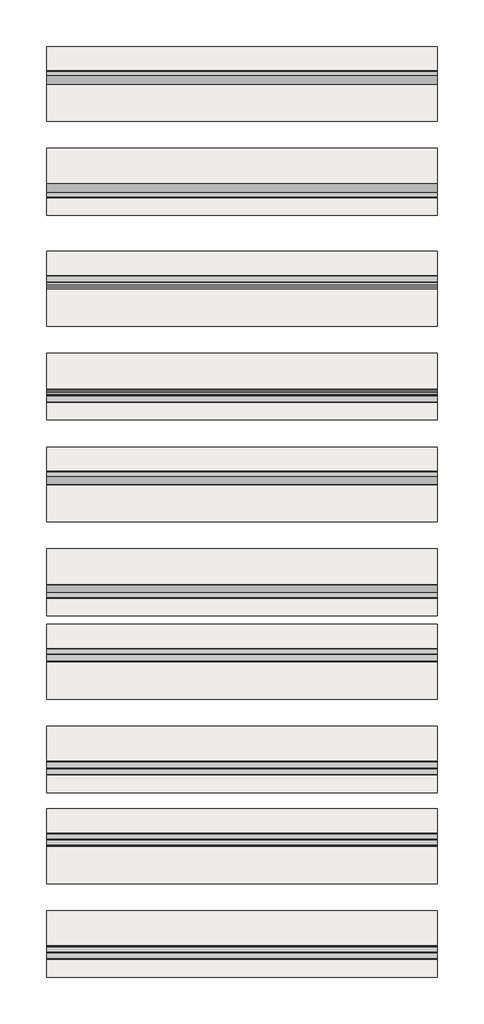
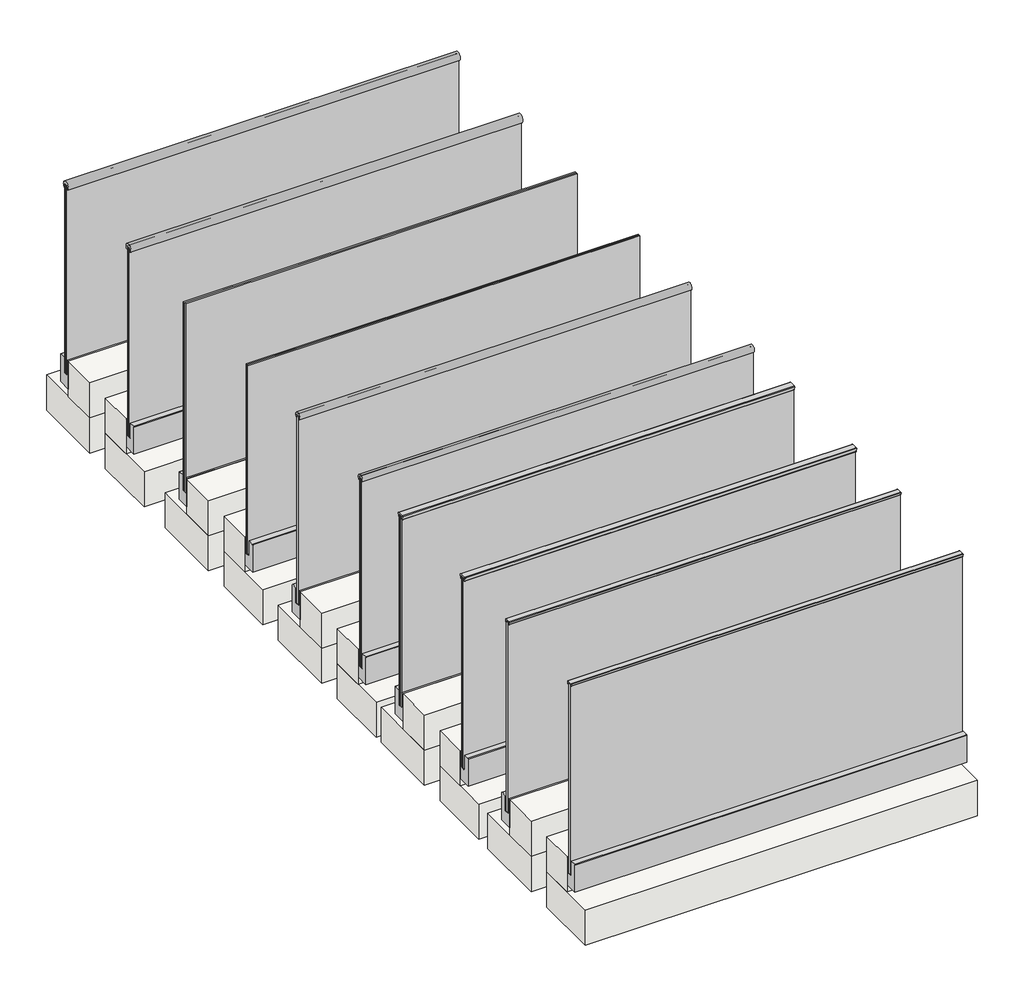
# One storey: 10 railings, 10 slabs.
"""IFC4 building model written with IfcOpenShell, lengths in millimetres."""

import ifcopenshell
import ifcopenshell.guid

model = None  # the IFC model being written
_history = None  # IfcOwnerHistory: only IFC2X3 demands one
_inside = {}  # id of a spatial element -> (the spatial element, [elements in it])
_under = {}  # id of a project, library or spatial element -> (it, [spatial elements below it])
_declared = {}  # id of a project -> (the project, [libraries it declares])
_typed = {}  # id of a type object -> (the type object, [elements of that type])
_made_of = {}  # id of a material, layer set ... -> (it, [elements and type objects made of it])


def new_model(schema):
    """Start an empty IFC model of exactly this schema.

    Asked for "IFC4X3", IfcOpenShell would pick the latest addendum, in which some entities
    have other attributes; the version numbers below select the first issue.
    IFC2X3 requires an IfcOwnerHistory on every rooted entity: one is made here for all.
    """
    global model, _history
    if schema == "IFC4X3":
        model = ifcopenshell.file(schema_version=(4, 3, 0, 0))
    else:
        model = ifcopenshell.file(schema=schema)
    _inside.clear()
    _under.clear()
    _declared.clear()
    _typed.clear()
    _made_of.clear()
    _history = None
    if model.schema == "IFC2X3":
        org = make("IfcOrganization", Name="unknown")
        user = make(
            "IfcPersonAndOrganization",
            ThePerson=make("IfcPerson", FamilyName="unknown"),
            TheOrganization=org,
        )
        app = make(
            "IfcApplication",
            ApplicationDeveloper=org,
            Version="unknown",
            ApplicationFullName="unknown",
            ApplicationIdentifier="unknown",
        )
        _history = make(
            "IfcOwnerHistory",
            OwningUser=user,
            OwningApplication=app,
            ChangeAction="ADDED",
            CreationDate=0,
        )
    return model


def make(cls, **values):
    """One entity of the class cls with the attributes given. An attribute that is None is left unset."""
    return model.create_entity(
        cls, **{name: value for name, value in values.items() if value is not None}
    )


def rooted(cls, **values):
    """An entity with a GlobalId (a new one), such as an element, a storey or a relation."""
    return make(cls, GlobalId=ifcopenshell.guid.new(), OwnerHistory=_history, **values)


def si_unit(unit_type, name, prefix=None):
    """IfcSIUnit, for example si_unit("LENGTHUNIT", "METRE", prefix="MILLI")."""
    return make("IfcSIUnit", UnitType=unit_type, Prefix=prefix, Name=name)


def assignment(units):
    """IfcUnitAssignment: the units of a project."""
    return None if units is None else make("IfcUnitAssignment", Units=units)


def point(xyz):
    """IfcCartesianPoint."""
    return None if xyz is None else make("IfcCartesianPoint", Coordinates=xyz)


def direction(xyz):
    """IfcDirection."""
    return None if xyz is None else make("IfcDirection", DirectionRatios=xyz)


def frame(location, z_axis=None, x_axis=None):
    """IfcAxis2Placement3D, a coordinate frame: its origin and axes. An axis left out is left unset."""
    return make(
        "IfcAxis2Placement3D",
        Location=point(location),
        Axis=direction(z_axis),
        RefDirection=direction(x_axis),
    )


def frame_2d(location, x_axis=None):
    """IfcAxis2Placement2D, a coordinate frame in the plane: its origin and x axis."""
    return make(
        "IfcAxis2Placement2D", Location=point(location), RefDirection=direction(x_axis)
    )


def origin():
    """The frame at (0, 0, 0) with its axes left unset."""
    return frame((0.0, 0.0, 0.0))


def place(relative_to, where):
    """IfcLocalPlacement: puts the frame where relative to a parent placement (None: the world)."""
    return make(
        "IfcLocalPlacement", PlacementRelTo=relative_to, RelativePlacement=where
    )


def context(
    kind, dimensions, precision=None, world=None, true_north=None, identifier=None
):
    """IfcGeometricRepresentationContext, for example the 3D "Model" context."""
    return make(
        "IfcGeometricRepresentationContext",
        ContextIdentifier=identifier,
        ContextType=kind,
        CoordinateSpaceDimension=dimensions,
        Precision=precision,
        WorldCoordinateSystem=world,
        TrueNorth=true_north,
    )


def project(units=None, contexts=None):
    """IfcProject with its units and contexts."""
    return rooted(
        "IfcProject",
        Name="project",
        RepresentationContexts=contexts,
        UnitsInContext=assignment(units),
    )


def spatial(cls, under=None, at=None, **own):
    """A site, building, storey or space (cls), placed at a placement, below another one or the project."""
    s = rooted(cls, ObjectPlacement=at, **own)
    if under is not None:
        _under.setdefault(under.id(), (under, []))[1].append(s)
    return s


def polyline(points):
    """IfcPolyline through the points."""
    return make("IfcPolyline", Points=[point(p) for p in points])


def circle_curve(where, radius):
    """IfcCircle in the frame where."""
    return make("IfcCircle", Position=where, Radius=radius)


def trimmed(basis, trim1, trim2, sense, master):
    """IfcTrimmedCurve: the piece of a basis curve between two trims."""
    return make(
        "IfcTrimmedCurve",
        BasisCurve=basis,
        Trim1=trim1,
        Trim2=trim2,
        SenseAgreement=sense,
        MasterRepresentation=master,
    )


def segment(curve, same_sense, transition):
    """IfcCompositeCurveSegment."""
    return make(
        "IfcCompositeCurveSegment",
        Transition=transition,
        SameSense=same_sense,
        ParentCurve=curve,
    )


def composite_curve(segments, self_intersect=None):
    """IfcCompositeCurve: segments joined end to end."""
    return make("IfcCompositeCurve", Segments=segments, SelfIntersect=self_intersect)


def outline(outer, holes=None, kind="AREA"):
    """IfcArbitraryClosedProfileDef: a profile drawn as a closed curve; with holes, ...WithVoids."""
    if holes is None:
        return make("IfcArbitraryClosedProfileDef", ProfileType=kind, OuterCurve=outer)
    return make(
        "IfcArbitraryProfileDefWithVoids",
        ProfileType=kind,
        OuterCurve=outer,
        InnerCurves=holes,
    )


def extrude(swept, where, along, depth):
    """IfcExtrudedAreaSolid: the profile swept, set in the frame where, extruded along a direction by depth."""
    return make(
        "IfcExtrudedAreaSolid",
        SweptArea=swept,
        Position=where,
        ExtrudedDirection=direction(along),
        Depth=depth,
    )


def shape(context_of_items, identifier, shape_type, items):
    """IfcShapeRepresentation: the items that make up one representation, for example the "Body"."""
    return make(
        "IfcShapeRepresentation",
        ContextOfItems=context_of_items,
        RepresentationIdentifier=identifier,
        RepresentationType=shape_type,
        Items=items,
    )


def source(mapping_origin, context_of_items, identifier, shape_type, items):
    """IfcRepresentationMap: a shape defined once, which mapped items show again and again."""
    return make(
        "IfcRepresentationMap",
        MappingOrigin=mapping_origin,
        MappedRepresentation=shape(context_of_items, identifier, shape_type, items),
    )


def transform(
    local_origin,
    x_axis=None,
    y_axis=None,
    z_axis=None,
    scale=None,
    scale2=None,
    scale3=None,
    uniform=True,
):
    """IfcCartesianTransformationOperator3D, or its non-uniform kind. x_axis, y_axis, z_axis: its Axis1, 2, 3."""
    if uniform:
        return make(
            "IfcCartesianTransformationOperator3D",
            Axis1=direction(x_axis),
            Axis2=direction(y_axis),
            LocalOrigin=point(local_origin),
            Scale=scale,
            Axis3=direction(z_axis),
        )
    return make(
        "IfcCartesianTransformationOperator3DnonUniform",
        Axis1=direction(x_axis),
        Axis2=direction(y_axis),
        LocalOrigin=point(local_origin),
        Scale=scale,
        Axis3=direction(z_axis),
        Scale2=scale2,
        Scale3=scale3,
    )


def mapped(mapping_source, mapping_target):
    """IfcMappedItem: shows the shape of a source again, moved by a transform."""
    return make(
        "IfcMappedItem", MappingSource=mapping_source, MappingTarget=mapping_target
    )


def made_of(thing, what):
    """Note that an element or type object is made of a material, layer set ...; save() writes the relation."""
    if what is not None:
        _made_of.setdefault(what.id(), (what, []))[1].append(thing)
    return thing


def element(
    cls,
    number,
    at=None,
    inside=None,
    cuts=None,
    type_object=None,
    material=None,
    context=None,
    identifier="Body",
    shape_type=None,
    held_by="IfcProductDefinitionShape",
    body=None,
    shapes=None,
    **own,
):
    """One element of the class cls, such as IfcWall. Its Tag is "e" and its number.

    at: its placement. inside: the storey or other place that contains it. cuts: it is an
    opening in that element (IfcRelVoidsElement). A single representation is given by context,
    identifier, shape_type and body (its items); several are given by shapes. held_by: the class
    of the entity that holds the representations. save() writes the other relations.
    """
    e = rooted(cls, Tag="e%d" % number, ObjectPlacement=at, **own)
    if body is not None:
        shapes = [shape(context, identifier, shape_type, body)]
    if shapes is not None:
        e.Representation = make(held_by, Representations=shapes)
    if inside is not None:
        _inside.setdefault(inside.id(), (inside, []))[1].append(e)
    if cuts is not None:
        rooted(
            "IfcRelVoidsElement", RelatingBuildingElement=cuts, RelatedOpeningElement=e
        )
    if type_object is not None:
        _typed.setdefault(type_object.id(), (type_object, []))[1].append(e)
    return made_of(e, material)


def aggregate(whole, parts):
    """IfcRelAggregates: a whole, such as a stair, and the parts it consists of."""
    return rooted("IfcRelAggregates", RelatingObject=whole, RelatedObjects=parts)


def save(model, path):
    """Write the relations noted so far, then the file.

    IfcRelAggregates (storeys below a building ...), IfcRelContainedInSpatialStructure (elements
    in a storey), IfcRelDefinesByType, IfcRelAssociatesMaterial and IfcRelDeclares: one each for
    every whole, place, type object, material and project.
    """
    for whole, parts in _under.values():
        aggregate(whole, parts)
    for where, things in _inside.values():
        rooted(
            "IfcRelContainedInSpatialStructure",
            RelatedElements=things,
            RelatingStructure=where,
        )
    for kind, things in _typed.values():
        rooted("IfcRelDefinesByType", RelatedObjects=things, RelatingType=kind)
    for what, things in _made_of.values():
        rooted("IfcRelAssociatesMaterial", RelatedObjects=things, RelatingMaterial=what)
    for by, libraries in _declared.values():
        rooted("IfcRelDeclares", RelatingContext=by, RelatedDefinitions=libraries)
    model.write(path)


def railing_2c3a87d8(model_context):
    return source(origin(), model_context, "Body", "SweptSolid", [
        extrude(outline(composite_curve([segment(polyline([(683.811512, 1066.5209903), (680.8421604, 1066.5209903), (680.8421604, 1085.52)]), True, "CONTINUOUS"), segment(trimmed(circle_curve(frame_2d((676.8421604, 1085.52)), 4.0), [point((680.8421604, 1085.52))], [point((676.8421604, 1089.52))], True, "CARTESIAN"), True, "CONTINUOUS"), segment(polyline([(676.8421604, 1089.52), (656.0821604, 1089.52)]), True, "CONTINUOUS"), segment(trimmed(circle_curve(frame_2d((656.0821604, 1085.52)), 4.0), [point((656.0821604, 1089.52))], [point((652.0821604, 1085.52))], True, "CARTESIAN"), True, "CONTINUOUS"), segment(polyline([(652.0821604, 1085.52), (652.0821604, 1066.5209903), (649.1128089, 1066.5209903)]), True, "CONTINUOUS"), segment(trimmed(circle_curve(frame_2d((666.4621604, 1084.5209903)), 25.0), [point((649.1128089, 1066.5209903))], [point((683.811512, 1066.5209903))], False, "CARTESIAN"), True, "CONTINUOUS")], self_intersect=False)), frame((4362.6376845, 0.0, 0.0), z_axis=(1.0, 0.0, 0.0), x_axis=(0.0, 1.0, 0.0)), (0.0, 0.0, 1.0), 2320.0),
        extrude(outline(polyline([(655.6821604, -92.36), (655.6821604, 1087.04), (665.9321604, 1087.04), (665.9321604, -91.56), (666.9321604, -91.56), (666.9321604, 1087.04), (677.1821604, 1087.04), (677.1821604, -92.36), (655.6821604, -92.36)])), frame((4362.6376845, 0.0, 0.0), z_axis=(1.0, 0.0, 0.0), x_axis=(0.0, 1.0, 0.0)), (0.0, 0.0, 1.0), 2320.0),
        extrude(outline(composite_curve([segment(polyline([(643.8095909, -0.0006325), (653.7140314, -0.0006325), (653.7140314, -95.3393625), (685.4902895, -95.3393625), (685.4902895, -0.0006325), (717.9710254, -0.0006325)]), True, "CONTINUOUS"), segment(trimmed(circle_curve(frame_2d((717.9710254, -3.0621312)), 3.0614987), [point((717.9710254, -0.0006325))], [point((721.0325241, -3.0621312))], False, "CARTESIAN"), True, "CONTINUOUS"), segment(polyline([(721.0325241, -3.0621312), (721.0325241, -173.21), (640.6889907, -173.21), (640.6889907, -3.1212327)]), True, "CONTINUOUS"), segment(trimmed(circle_curve(frame_2d((643.8095909, -3.1212327)), 3.1206002), [point((640.6889907, -3.1212327))], [point((643.8095909, -0.0006325))], False, "CARTESIAN"), True, "CONTINUOUS")], self_intersect=False)), frame((4362.6376845, 0.0, 0.0), z_axis=(1.0, 0.0, 0.0), x_axis=(0.0, 1.0, 0.0)), (0.0, 0.0, 1.0), 2320.0),
        extrude(outline(polyline([(653.7102457, -95.34), (653.7102457, -20.1108016), (655.6841937, -20.1108016), (655.6841937, -92.3609041), (677.1940752, -92.3609041), (677.1940752, -95.34), (653.7102457, -95.34)])), frame((4362.6376845, 0.0, 0.0), z_axis=(1.0, 0.0, 0.0), x_axis=(0.0, 1.0, 0.0)), (0.0, 0.0, 1.0), 2320.0),
        extrude(outline(polyline([(4362.6376845, 652.0821604), (4362.6376845, 655.6821604), (6682.6376845, 655.6821604), (6682.6376845, 652.0821604), (4362.6376845, 652.0821604)])), frame((0.0, 0.0, 1066.52), z_axis=(0.0, 0.0, 1.0), x_axis=(1.0, 0.0, 0.0)), (0.0, 0.0, 1.0), 17.0),
        extrude(outline(polyline([(4362.6376845, 677.2121604), (4362.6376845, 680.8121604), (6682.6376845, 680.8121604), (6682.6376845, 677.2121604), (4362.6376845, 677.2121604)])), frame((0.0, 0.0, 1066.52), z_axis=(0.0, 0.0, 1.0), x_axis=(1.0, 0.0, 0.0)), (0.0, 0.0, 1.0), 17.0),
        extrude(outline(polyline([(4362.6376845, 655.6321604), (4362.6376845, 677.1321604), (6682.6376845, 677.1321604), (6682.6376845, 655.6321604), (4362.6376845, 655.6321604)])), frame((0.0, 0.0, 1087.02), z_axis=(0.0, 0.0, 1.0), x_axis=(1.0, 0.0, 0.0)), (0.0, 0.0, 1.0), 2.5),
    ])


def railing_4d57ba7c(model_context):
    return source(origin(), model_context, "Body", "SweptSolid", [
        extrude(outline(composite_curve([segment(trimmed(circle_curve(frame_2d((25.0321604, 1084.5209903)), 25.0), [point((7.6828089, 1066.5209903))], [point((42.381512, 1066.5209903))], False, "CARTESIAN"), True, "CONTINUOUS"), segment(polyline([(42.381512, 1066.5209903), (39.4121604, 1066.5209903), (39.4121604, 1085.52)]), True, "CONTINUOUS"), segment(trimmed(circle_curve(frame_2d((35.4121604, 1085.52)), 4.0), [point((39.4121604, 1085.52))], [point((35.4121604, 1089.52))], True, "CARTESIAN"), True, "CONTINUOUS"), segment(polyline([(35.4121604, 1089.52), (14.6521604, 1089.52)]), True, "CONTINUOUS"), segment(trimmed(circle_curve(frame_2d((14.6521604, 1085.52)), 4.0), [point((14.6521604, 1089.52))], [point((10.6521604, 1085.52))], True, "CARTESIAN"), True, "CONTINUOUS"), segment(polyline([(10.6521604, 1085.52), (10.6521604, 1066.5209903), (7.6828089, 1066.5209903)]), True, "CONTINUOUS")], self_intersect=False)), frame((4362.6376845, 0.0, 0.0), z_axis=(1.0, 0.0, 0.0), x_axis=(0.0, 1.0, 0.0)), (0.0, 0.0, 1.0), 2320.0),
        extrude(outline(polyline([(33.4221604, -92.36), (16.6221604, -92.36), (16.6221604, 1087.04), (24.5221604, 1087.04), (24.5221604, -91.56), (25.5221604, -91.56), (25.5221604, 1087.04), (33.4221604, 1087.04), (33.4221604, -92.36)])), frame((4362.6376845, 0.0, 0.0), z_axis=(1.0, 0.0, 0.0), x_axis=(0.0, 1.0, 0.0)), (0.0, 0.0, 1.0), 2320.0),
        extrude(outline(composite_curve([segment(trimmed(circle_curve(frame_2d((45.91473, -3.1212327)), 3.1206002), [point((45.91473, -0.0006325))], [point((49.0353302, -3.1212327))], False, "CARTESIAN"), True, "CONTINUOUS"), segment(polyline([(49.0353302, -3.1212327), (49.0353302, -173.21), (-31.3082032, -173.21), (-31.3082032, -3.0621312)]), True, "CONTINUOUS"), segment(trimmed(circle_curve(frame_2d((-28.2467045, -3.0621312)), 3.0614987), [point((-31.3082032, -3.0621312))], [point((-28.2467045, -0.0006325))], False, "CARTESIAN"), True, "CONTINUOUS"), segment(polyline([(-28.2467045, -0.0006325), (4.2340314, -0.0006325), (4.2340314, -95.3393625), (36.0102895, -95.3393625), (36.0102895, -0.0006325), (45.91473, -0.0006325)]), True, "CONTINUOUS")], self_intersect=False)), frame((4362.6376845, 0.0, 0.0), z_axis=(1.0, 0.0, 0.0), x_axis=(0.0, 1.0, 0.0)), (0.0, 0.0, 1.0), 2320.0),
        extrude(outline(polyline([(36.0140752, -95.34), (12.5302457, -95.34), (12.5302457, -92.3609041), (33.2901272, -92.3609041), (33.2901272, -20.1108016), (36.0140752, -20.1108016), (36.0140752, -95.34)])), frame((4362.6376845, 0.0, 0.0), z_axis=(1.0, 0.0, 0.0), x_axis=(0.0, 1.0, 0.0)), (0.0, 0.0, 1.0), 2320.0),
        extrude(outline(polyline([(4362.6376845, 33.4221604), (4362.6376845, 39.4221604), (6682.6376845, 39.4221604), (6682.6376845, 33.4221604), (4362.6376845, 33.4221604)])), frame((0.0, 0.0, 1066.52), z_axis=(0.0, 0.0, 1.0), x_axis=(1.0, 0.0, 0.0)), (0.0, 0.0, 1.0), 17.0),
        extrude(outline(polyline([(4362.6376845, 10.6421604), (4362.6376845, 16.6421604), (6682.6376845, 16.6421604), (6682.6376845, 10.6421604), (4362.6376845, 10.6421604)])), frame((0.0, 0.0, 1066.52), z_axis=(0.0, 0.0, 1.0), x_axis=(1.0, 0.0, 0.0)), (0.0, 0.0, 1.0), 17.0),
        extrude(outline(polyline([(4362.6376845, 14.3421604), (4362.6376845, 35.8421604), (6682.6376845, 35.8421604), (6682.6376845, 14.3421604), (4362.6376845, 14.3421604)])), frame((0.0, 0.0, 1087.02), z_axis=(0.0, 0.0, 1.0), x_axis=(1.0, 0.0, 0.0)), (0.0, 0.0, 1.0), 2.5),
    ])


def railing_5fe70a3d(model_context):
    return source(origin(), model_context, "Body", "SweptSolid", [
        extrude(outline(composite_curve([segment(polyline([(-1696.4218324, 1070.0168397), (-1699.2438425, 1070.0168397), (-1699.2438425, 1086.1465538)]), True, "CONTINUOUS"), segment(trimmed(circle_curve(frame_2d((-1702.6172887, 1086.1465538)), 3.3734462), [point((-1699.2438425, 1086.1465538))], [point((-1702.6172887, 1089.52))], True, "CARTESIAN"), True, "CONTINUOUS"), segment(polyline([(-1702.6172887, 1089.52), (-1719.6388003, 1089.52)]), True, "CONTINUOUS"), segment(trimmed(circle_curve(frame_2d((-1719.6388003, 1086.1344777)), 3.3855223), [point((-1719.6388003, 1089.52))], [point((-1723.0243225, 1086.1344777))], True, "CARTESIAN"), True, "CONTINUOUS"), segment(polyline([(-1723.0243225, 1086.1344777), (-1723.0243225, 1070.0168397), (-1725.8463327, 1070.0168397)]), True, "CONTINUOUS"), segment(trimmed(circle_curve(frame_2d((-1711.1340825, 1085.2808397)), 21.2), [point((-1725.8463327, 1070.0168397))], [point((-1696.4218324, 1070.0168397))], False, "CARTESIAN"), True, "CONTINUOUS")], self_intersect=False)), frame((4362.6376845, 0.0, 0.0), z_axis=(1.0, 0.0, 0.0), x_axis=(0.0, 1.0, 0.0)), (0.0, 0.0, 1.0), 2320.0),
        extrude(outline(polyline([(-1721.9140825, -92.36), (-1721.9140825, 1087.54), (-1711.6640825, 1087.54), (-1711.6640825, -91.56), (-1710.6640825, -91.56), (-1710.6640825, 1087.54), (-1700.4140825, 1087.54), (-1700.4140825, -92.36), (-1721.9140825, -92.36)])), frame((4362.6376845, 0.0, 0.0), z_axis=(1.0, 0.0, 0.0), x_axis=(0.0, 1.0, 0.0)), (0.0, 0.0, 1.0), 2320.0),
        extrude(outline(composite_curve([segment(polyline([(-1733.7866521, -0.0006325), (-1723.8822116, -0.0006325), (-1723.8822116, -95.3393625), (-1692.1059535, -95.3393625), (-1692.1059535, -0.0006325), (-1659.6252176, -0.0006325)]), True, "CONTINUOUS"), segment(trimmed(circle_curve(frame_2d((-1659.6252176, -3.0621312)), 3.0614987), [point((-1659.6252176, -0.0006325))], [point((-1656.5637189, -3.0621312))], False, "CARTESIAN"), True, "CONTINUOUS"), segment(polyline([(-1656.5637189, -3.0621312), (-1656.5637189, -173.21), (-1736.9072523, -173.21), (-1736.9072523, -3.1212327)]), True, "CONTINUOUS"), segment(trimmed(circle_curve(frame_2d((-1733.7866521, -3.1212327)), 3.1206002), [point((-1736.9072523, -3.1212327))], [point((-1733.7866521, -0.0006325))], False, "CARTESIAN"), True, "CONTINUOUS")], self_intersect=False)), frame((4362.6376845, 0.0, 0.0), z_axis=(1.0, 0.0, 0.0), x_axis=(0.0, 1.0, 0.0)), (0.0, 0.0, 1.0), 2320.0),
        extrude(outline(polyline([(-1723.8859973, -95.34), (-1723.8859973, -20.1108016), (-1721.9120493, -20.1108016), (-1721.9120493, -92.3609041), (-1700.4021678, -92.3609041), (-1700.4021678, -95.34), (-1723.8859973, -95.34)])), frame((4362.6376845, 0.0, 0.0), z_axis=(1.0, 0.0, 0.0), x_axis=(0.0, 1.0, 0.0)), (0.0, 0.0, 1.0), 2320.0),
    ])


def railing_8fe8532e(model_context):
    return source(origin(), model_context, "Body", "SweptSolid", [
        extrude(outline(composite_curve([segment(trimmed(circle_curve(frame_2d((-2352.5640825, 1085.2808397)), 21.2), [point((-2367.2763327, 1070.0168397))], [point((-2337.8518324, 1070.0168397))], False, "CARTESIAN"), True, "CONTINUOUS"), segment(polyline([(-2337.8518324, 1070.0168397), (-2340.6738425, 1070.0168397), (-2340.6738425, 1086.1344777)]), True, "CONTINUOUS"), segment(trimmed(circle_curve(frame_2d((-2344.0593648, 1086.1344777)), 3.3855223), [point((-2340.6738425, 1086.1344777))], [point((-2344.0593648, 1089.52))], True, "CARTESIAN"), True, "CONTINUOUS"), segment(polyline([(-2344.0593648, 1089.52), (-2361.0808764, 1089.52)]), True, "CONTINUOUS"), segment(trimmed(circle_curve(frame_2d((-2361.0808764, 1086.1465538)), 3.3734462), [point((-2361.0808764, 1089.52))], [point((-2364.4543225, 1086.1465538))], True, "CARTESIAN"), True, "CONTINUOUS"), segment(polyline([(-2364.4543225, 1086.1465538), (-2364.4543225, 1070.0168397), (-2367.2763327, 1070.0168397)]), True, "CONTINUOUS")], self_intersect=False)), frame((4362.6376845, 0.0, 0.0), z_axis=(1.0, 0.0, 0.0), x_axis=(0.0, 1.0, 0.0)), (0.0, 0.0, 1.0), 2320.0),
        extrude(outline(polyline([(-2344.1740825, -92.36), (-2360.9740825, -92.36), (-2360.9740825, 1087.54), (-2353.0740825, 1087.54), (-2353.0740825, -91.56), (-2352.0740825, -91.56), (-2352.0740825, 1087.54), (-2344.1740825, 1087.54), (-2344.1740825, -92.36)])), frame((4362.6376845, 0.0, 0.0), z_axis=(1.0, 0.0, 0.0), x_axis=(0.0, 1.0, 0.0)), (0.0, 0.0, 1.0), 2320.0),
        extrude(outline(composite_curve([segment(trimmed(circle_curve(frame_2d((-2331.681513, -3.1212327)), 3.1206002), [point((-2331.681513, -0.0006325))], [point((-2328.5609128, -3.1212327))], False, "CARTESIAN"), True, "CONTINUOUS"), segment(polyline([(-2328.5609128, -3.1212327), (-2328.5609128, -173.21), (-2408.9044462, -173.21), (-2408.9044462, -3.0621312)]), True, "CONTINUOUS"), segment(trimmed(circle_curve(frame_2d((-2405.8429475, -3.0621312)), 3.0614987), [point((-2408.9044462, -3.0621312))], [point((-2405.8429475, -0.0006325))], False, "CARTESIAN"), True, "CONTINUOUS"), segment(polyline([(-2405.8429475, -0.0006325), (-2373.3622116, -0.0006325), (-2373.3622116, -95.3393625), (-2341.5859535, -95.3393625), (-2341.5859535, -0.0006325), (-2331.681513, -0.0006325)]), True, "CONTINUOUS")], self_intersect=False)), frame((4362.6376845, 0.0, 0.0), z_axis=(1.0, 0.0, 0.0), x_axis=(0.0, 1.0, 0.0)), (0.0, 0.0, 1.0), 2320.0),
        extrude(outline(polyline([(-2341.5821678, -95.34), (-2365.0659973, -95.34), (-2365.0659973, -92.3609041), (-2344.3061158, -92.3609041), (-2344.3061158, -20.1108016), (-2341.5821678, -20.1108016), (-2341.5821678, -95.34)])), frame((4362.6376845, 0.0, 0.0), z_axis=(1.0, 0.0, 0.0), x_axis=(0.0, 1.0, 0.0)), (0.0, 0.0, 1.0), 2320.0),
    ])


def railing_111b7c1b(model_context):
    return source(origin(), model_context, "Body", "SweptSolid", [
        extrude(outline(composite_curve([segment(polyline([(-2781.9095811, 1109.56), (-2745.5530807, 1109.56)]), True, "CONTINUOUS"), segment(trimmed(circle_curve(frame_2d((-2745.5530807, 1106.5130839)), 3.0469161), [point((-2745.5530807, 1109.56))], [point((-2742.5360514, 1106.0873703))], False, "CARTESIAN"), True, "CONTINUOUS"), segment(polyline([(-2742.5360514, 1106.0873703), (-2745.3279492, 1086.3012064)]), True, "CONTINUOUS"), segment(trimmed(circle_curve(frame_2d((-2747.3320945, 1086.5839984)), 2.0239984), [point((-2745.3279492, 1086.3012064))], [point((-2747.3320945, 1084.56))], False, "CARTESIAN"), True, "CONTINUOUS"), segment(polyline([(-2747.3320945, 1084.56), (-2750.9813309, 1084.56), (-2750.9813309, 1102.56), (-2776.4813309, 1102.56), (-2776.4813309, 1084.56), (-2780.1305674, 1084.56)]), True, "CONTINUOUS"), segment(trimmed(circle_curve(frame_2d((-2780.1305674, 1086.5839984)), 2.0239984), [point((-2780.1305674, 1084.56))], [point((-2782.1347127, 1086.3012064))], False, "CARTESIAN"), True, "CONTINUOUS"), segment(polyline([(-2782.1347127, 1086.3012064), (-2784.9266105, 1106.0873703)]), True, "CONTINUOUS"), segment(trimmed(circle_curve(frame_2d((-2781.9095811, 1106.5130839)), 3.0469161), [point((-2784.9266105, 1106.0873703))], [point((-2781.9095811, 1109.56))], False, "CARTESIAN"), True, "CONTINUOUS")], self_intersect=False)), frame((4362.6376845, 0.0, 0.0), z_axis=(1.0, 0.0, 0.0), x_axis=(0.0, 1.0, 0.0)), (0.0, 0.0, 1.0), 2320.0),
        extrude(outline(polyline([(-2774.5113309, -92.36), (-2774.5113309, 1100.56), (-2764.2613309, 1100.56), (-2764.2613309, -91.56), (-2763.2613309, -91.56), (-2763.2613309, 1100.56), (-2753.0113309, 1100.56), (-2753.0113309, -92.36), (-2774.5113309, -92.36)])), frame((4362.6376845, 0.0, 0.0), z_axis=(1.0, 0.0, 0.0), x_axis=(0.0, 1.0, 0.0)), (0.0, 0.0, 1.0), 2320.0),
        extrude(outline(composite_curve([segment(polyline([(-2786.3839005, -0.0006325), (-2776.47946, -0.0006325), (-2776.47946, -95.3393625), (-2744.7032019, -95.3393625), (-2744.7032019, -0.0006325), (-2712.222466, -0.0006325)]), True, "CONTINUOUS"), segment(trimmed(circle_curve(frame_2d((-2712.222466, -3.0621312)), 3.0614987), [point((-2712.222466, -0.0006325))], [point((-2709.1609673, -3.0621312))], False, "CARTESIAN"), True, "CONTINUOUS"), segment(polyline([(-2709.1609673, -3.0621312), (-2709.1609673, -173.21), (-2789.5045007, -173.21), (-2789.5045007, -3.1212327)]), True, "CONTINUOUS"), segment(trimmed(circle_curve(frame_2d((-2786.3839005, -3.1212327)), 3.1206002), [point((-2789.5045007, -3.1212327))], [point((-2786.3839005, -0.0006325))], False, "CARTESIAN"), True, "CONTINUOUS")], self_intersect=False)), frame((4362.6376845, 0.0, 0.0), z_axis=(1.0, 0.0, 0.0), x_axis=(0.0, 1.0, 0.0)), (0.0, 0.0, 1.0), 2320.0),
        extrude(outline(polyline([(-2776.4832457, -95.34), (-2776.4832457, -20.1108016), (-2774.5092977, -20.1108016), (-2774.5092977, -92.3609041), (-2752.9994161, -92.3609041), (-2752.9994161, -95.34), (-2776.4832457, -95.34)])), frame((4362.6376845, 0.0, 0.0), z_axis=(1.0, 0.0, 0.0), x_axis=(0.0, 1.0, 0.0)), (0.0, 0.0, 1.0), 2320.0),
        extrude(outline(polyline([(4362.6376845, -2776.4813309), (4362.6376845, -2774.4813309), (6682.6376845, -2774.4813309), (6682.6376845, -2776.4813309), (4362.6376845, -2776.4813309)])), frame((0.0, 0.0, 1091.82), z_axis=(0.0, 0.0, 1.0), x_axis=(1.0, 0.0, 0.0)), (0.0, 0.0, 1.0), 10.74),
        extrude(outline(polyline([(4362.6376845, -2752.9813309), (4362.6376845, -2750.9813309), (6682.6376845, -2750.9813309), (6682.6376845, -2752.9813309), (4362.6376845, -2752.9813309)])), frame((0.0, 0.0, 1091.82), z_axis=(0.0, 0.0, 1.0), x_axis=(1.0, 0.0, 0.0)), (0.0, 0.0, 1.0), 10.74),
        extrude(outline(polyline([(4362.6376845, -2774.5613309), (4362.6376845, -2753.0613309), (6682.6376845, -2753.0613309), (6682.6376845, -2774.5613309), (4362.6376845, -2774.5613309)])), frame((0.0, 0.0, 1100.56), z_axis=(0.0, 0.0, 1.0), x_axis=(1.0, 0.0, 0.0)), (0.0, 0.0, 1.0), 2.0),
    ])


def railing_6d46e8ff(model_context):
    return source(origin(), model_context, "Body", "SweptSolid", [
        extrude(outline(composite_curve([segment(trimmed(circle_curve(frame_2d((-3381.6030807, 1106.5130839)), 3.0469161), [point((-3381.6030807, 1109.56))], [point((-3378.5860514, 1106.0873703))], False, "CARTESIAN"), True, "CONTINUOUS"), segment(polyline([(-3378.5860514, 1106.0873703), (-3381.3779492, 1086.3012064)]), True, "CONTINUOUS"), segment(trimmed(circle_curve(frame_2d((-3383.3820945, 1086.5839984)), 2.0239984), [point((-3381.3779492, 1086.3012064))], [point((-3383.3820945, 1084.56))], False, "CARTESIAN"), True, "CONTINUOUS"), segment(polyline([(-3383.3820945, 1084.56), (-3387.0313309, 1084.56), (-3387.0313309, 1102.56), (-3412.5313309, 1102.56), (-3412.5313309, 1084.56), (-3416.1805674, 1084.56)]), True, "CONTINUOUS"), segment(trimmed(circle_curve(frame_2d((-3416.1805674, 1086.5839984)), 2.0239984), [point((-3416.1805674, 1084.56))], [point((-3418.1847127, 1086.3012064))], False, "CARTESIAN"), True, "CONTINUOUS"), segment(polyline([(-3418.1847127, 1086.3012064), (-3420.9766105, 1106.0873703)]), True, "CONTINUOUS"), segment(trimmed(circle_curve(frame_2d((-3417.9595811, 1106.5130839)), 3.0469161), [point((-3420.9766105, 1106.0873703))], [point((-3417.9595811, 1109.56))], False, "CARTESIAN"), True, "CONTINUOUS"), segment(polyline([(-3417.9595811, 1109.56), (-3381.6030807, 1109.56)]), True, "CONTINUOUS")], self_intersect=False)), frame((4362.6376845, 0.0, 0.0), z_axis=(1.0, 0.0, 0.0), x_axis=(0.0, 1.0, 0.0)), (0.0, 0.0, 1.0), 2320.0),
        extrude(outline(polyline([(-3391.3513309, -92.36), (-3408.1513309, -92.36), (-3408.1513309, 1100.56), (-3400.2513309, 1100.56), (-3400.2513309, -91.56), (-3399.2513309, -91.56), (-3399.2513309, 1100.56), (-3391.3513309, 1100.56), (-3391.3513309, -92.36)])), frame((4362.6376845, 0.0, 0.0), z_axis=(1.0, 0.0, 0.0), x_axis=(0.0, 1.0, 0.0)), (0.0, 0.0, 1.0), 2320.0),
        extrude(outline(composite_curve([segment(trimmed(circle_curve(frame_2d((-3379.4787613, -3.1212327)), 3.1206002), [point((-3379.4787613, -0.0006325))], [point((-3376.3581612, -3.1212327))], False, "CARTESIAN"), True, "CONTINUOUS"), segment(polyline([(-3376.3581612, -3.1212327), (-3376.3581612, -173.21), (-3456.7016946, -173.21), (-3456.7016946, -3.0621312)]), True, "CONTINUOUS"), segment(trimmed(circle_curve(frame_2d((-3453.6401959, -3.0621312)), 3.0614987), [point((-3456.7016946, -3.0621312))], [point((-3453.6401959, -0.0006325))], False, "CARTESIAN"), True, "CONTINUOUS"), segment(polyline([(-3453.6401959, -0.0006325), (-3421.15946, -0.0006325), (-3421.15946, -95.3393625), (-3389.3832019, -95.3393625), (-3389.3832019, -0.0006325), (-3379.4787613, -0.0006325)]), True, "CONTINUOUS")], self_intersect=False)), frame((4362.6376845, 0.0, 0.0), z_axis=(1.0, 0.0, 0.0), x_axis=(0.0, 1.0, 0.0)), (0.0, 0.0, 1.0), 2320.0),
        extrude(outline(polyline([(-3389.3794161, -95.34), (-3412.8632457, -95.34), (-3412.8632457, -92.3609041), (-3391.3533642, -92.3609041), (-3391.3533642, -20.1108016), (-3389.3794161, -20.1108016), (-3389.3794161, -95.34)])), frame((4362.6376845, 0.0, 0.0), z_axis=(1.0, 0.0, 0.0), x_axis=(0.0, 1.0, 0.0)), (0.0, 0.0, 1.0), 2320.0),
        extrude(outline(polyline([(4362.6376845, -3391.4313309), (4362.6376845, -3387.0313309), (6682.6376845, -3387.0313309), (6682.6376845, -3391.4313309), (4362.6376845, -3391.4313309)])), frame((0.0, 0.0, 1089.82), z_axis=(0.0, 0.0, 1.0), x_axis=(1.0, 0.0, 0.0)), (0.0, 0.0, 1.0), 10.74),
        extrude(outline(polyline([(4362.6376845, -3412.5513309), (4362.6376845, -3408.1513309), (6682.6376845, -3408.1513309), (6682.6376845, -3412.5513309), (4362.6376845, -3412.5513309)])), frame((0.0, 0.0, 1089.82), z_axis=(0.0, 0.0, 1.0), x_axis=(1.0, 0.0, 0.0)), (0.0, 0.0, 1.0), 10.74),
        extrude(outline(polyline([(4362.6376845, -3410.4513309), (4362.6376845, -3388.9513309), (6682.6376845, -3388.9513309), (6682.6376845, -3410.4513309), (4362.6376845, -3410.4513309)])), frame((0.0, 0.0, 1100.56), z_axis=(0.0, 0.0, 1.0), x_axis=(1.0, 0.0, 0.0)), (0.0, 0.0, 1.0), 2.0),
    ])


def railing_1a8d3a8f(model_context):
    return source(origin(), model_context, "Body", "SweptSolid", [
        extrude(outline(composite_curve([segment(polyline([(-3874.2613698, 1107.5126187), (-3842.8474347, 1107.5126187)]), True, "CONTINUOUS"), segment(trimmed(circle_curve(frame_2d((-3842.8474347, 1105.3563017)), 2.156317), [point((-3842.8474347, 1107.5126187))], [point((-3840.7122687, 1105.0550222))], False, "CARTESIAN"), True, "CONTINUOUS"), segment(polyline([(-3840.7122687, 1105.0550222), (-3842.688108, 1091.0522601)]), True, "CONTINUOUS"), segment(trimmed(circle_curve(frame_2d((-3844.1064512, 1091.2523933)), 1.4323933), [point((-3842.688108, 1091.0522601))], [point((-3844.1064512, 1089.82))], False, "CARTESIAN"), True, "CONTINUOUS"), segment(polyline([(-3844.1064512, 1089.82), (-3845.8044022, 1089.82), (-3845.8044022, 1102.5586855), (-3871.3044022, 1102.5586855), (-3871.3044022, 1089.82), (-3873.0023533, 1089.82)]), True, "CONTINUOUS"), segment(trimmed(circle_curve(frame_2d((-3873.0023533, 1091.2523933)), 1.4323933), [point((-3873.0023533, 1089.82))], [point((-3874.4206964, 1091.0522601))], False, "CARTESIAN"), True, "CONTINUOUS"), segment(polyline([(-3874.4206964, 1091.0522601), (-3876.3965357, 1105.0550222)]), True, "CONTINUOUS"), segment(trimmed(circle_curve(frame_2d((-3874.2613698, 1105.3563017)), 2.156317), [point((-3876.3965357, 1105.0550222))], [point((-3874.2613698, 1107.5126187))], False, "CARTESIAN"), True, "CONTINUOUS")], self_intersect=False)), frame((4362.6376845, 0.0, 0.0), z_axis=(1.0, 0.0, 0.0), x_axis=(0.0, 1.0, 0.0)), (0.0, 0.0, 1.0), 2320.0),
        extrude(outline(polyline([(-3869.3344022, -92.36), (-3869.3344022, 1100.56), (-3859.0844022, 1100.56), (-3859.0844022, -91.56), (-3858.0844022, -91.56), (-3858.0844022, 1100.56), (-3847.8344022, 1100.56), (-3847.8344022, -92.36), (-3869.3344022, -92.36)])), frame((4362.6376845, 0.0, 0.0), z_axis=(1.0, 0.0, 0.0), x_axis=(0.0, 1.0, 0.0)), (0.0, 0.0, 1.0), 2320.0),
        extrude(outline(composite_curve([segment(polyline([(-3881.2069718, -0.0006325), (-3871.3025313, -0.0006325), (-3871.3025313, -95.3393625), (-3839.5262732, -95.3393625), (-3839.5262732, -0.0006325), (-3807.0455373, -0.0006325)]), True, "CONTINUOUS"), segment(trimmed(circle_curve(frame_2d((-3807.0455373, -3.0621312)), 3.0614987), [point((-3807.0455373, -0.0006325))], [point((-3803.9840386, -3.0621312))], False, "CARTESIAN"), True, "CONTINUOUS"), segment(polyline([(-3803.9840386, -3.0621312), (-3803.9840386, -173.21), (-3884.327572, -173.21), (-3884.327572, -3.1212327)]), True, "CONTINUOUS"), segment(trimmed(circle_curve(frame_2d((-3881.2069718, -3.1212327)), 3.1206002), [point((-3884.327572, -3.1212327))], [point((-3881.2069718, -0.0006325))], False, "CARTESIAN"), True, "CONTINUOUS")], self_intersect=False)), frame((4362.6376845, 0.0, 0.0), z_axis=(1.0, 0.0, 0.0), x_axis=(0.0, 1.0, 0.0)), (0.0, 0.0, 1.0), 2320.0),
        extrude(outline(polyline([(-3871.306317, -95.34), (-3871.306317, -20.1108016), (-3869.332369, -20.1108016), (-3869.332369, -92.3609041), (-3847.8224874, -92.3609041), (-3847.8224874, -95.34), (-3871.306317, -95.34)])), frame((4362.6376845, 0.0, 0.0), z_axis=(1.0, 0.0, 0.0), x_axis=(0.0, 1.0, 0.0)), (0.0, 0.0, 1.0), 2320.0),
        extrude(outline(polyline([(4362.6376845, -3871.3044022), (4362.6376845, -3869.3044022), (6682.6376845, -3869.3044022), (6682.6376845, -3871.3044022), (4362.6376845, -3871.3044022)])), frame((0.0, 0.0, 1091.82), z_axis=(0.0, 0.0, 1.0), x_axis=(1.0, 0.0, 0.0)), (0.0, 0.0, 1.0), 10.74),
        extrude(outline(polyline([(4362.6376845, -3847.8044022), (4362.6376845, -3845.8044022), (6682.6376845, -3845.8044022), (6682.6376845, -3847.8044022), (4362.6376845, -3847.8044022)])), frame((0.0, 0.0, 1091.82), z_axis=(0.0, 0.0, 1.0), x_axis=(1.0, 0.0, 0.0)), (0.0, 0.0, 1.0), 10.74),
        extrude(outline(polyline([(4362.6376845, -3869.3844022), (4362.6376845, -3847.8844022), (6682.6376845, -3847.8844022), (6682.6376845, -3869.3844022), (4362.6376845, -3869.3844022)])), frame((0.0, 0.0, 1100.56), z_axis=(0.0, 0.0, 1.0), x_axis=(1.0, 0.0, 0.0)), (0.0, 0.0, 1.0), 2.0),
    ])


def railing_5e898a5a(model_context):
    return source(origin(), model_context, "Body", "SweptSolid", [
        extrude(outline(composite_curve([segment(trimmed(circle_curve(frame_2d((-4478.8974347, 1105.3563017)), 2.156317), [point((-4478.8974347, 1107.5126187))], [point((-4476.7622687, 1105.0550222))], False, "CARTESIAN"), True, "CONTINUOUS"), segment(polyline([(-4476.7622687, 1105.0550222), (-4478.738108, 1091.0522601)]), True, "CONTINUOUS"), segment(trimmed(circle_curve(frame_2d((-4480.1564512, 1091.2523933)), 1.4323933), [point((-4478.738108, 1091.0522601))], [point((-4480.1564512, 1089.82))], False, "CARTESIAN"), True, "CONTINUOUS"), segment(polyline([(-4480.1564512, 1089.82), (-4481.8544022, 1089.82), (-4481.8544022, 1102.5586855), (-4507.3544022, 1102.5586855), (-4507.3544022, 1089.82), (-4509.0523533, 1089.82)]), True, "CONTINUOUS"), segment(trimmed(circle_curve(frame_2d((-4509.0523533, 1091.2523933)), 1.4323933), [point((-4509.0523533, 1089.82))], [point((-4510.4706964, 1091.0522601))], False, "CARTESIAN"), True, "CONTINUOUS"), segment(polyline([(-4510.4706964, 1091.0522601), (-4512.4465357, 1105.0550222)]), True, "CONTINUOUS"), segment(trimmed(circle_curve(frame_2d((-4510.3113698, 1105.3563017)), 2.156317), [point((-4512.4465357, 1105.0550222))], [point((-4510.3113698, 1107.5126187))], False, "CARTESIAN"), True, "CONTINUOUS"), segment(polyline([(-4510.3113698, 1107.5126187), (-4478.8974347, 1107.5126187)]), True, "CONTINUOUS")], self_intersect=False)), frame((4362.6376845, 0.0, 0.0), z_axis=(1.0, 0.0, 0.0), x_axis=(0.0, 1.0, 0.0)), (0.0, 0.0, 1.0), 2320.0),
        extrude(outline(polyline([(-4486.1744022, -92.36), (-4502.9744022, -92.36), (-4502.9744022, 1100.56), (-4495.0744022, 1100.56), (-4495.0744022, -91.56), (-4494.0744022, -91.56), (-4494.0744022, 1100.56), (-4486.1744022, 1100.56), (-4486.1744022, -92.36)])), frame((4362.6376845, 0.0, 0.0), z_axis=(1.0, 0.0, 0.0), x_axis=(0.0, 1.0, 0.0)), (0.0, 0.0, 1.0), 2320.0),
        extrude(outline(composite_curve([segment(trimmed(circle_curve(frame_2d((-4474.3018327, -3.1212327)), 3.1206002), [point((-4474.3018327, -0.0006325))], [point((-4471.1812325, -3.1212327))], False, "CARTESIAN"), True, "CONTINUOUS"), segment(polyline([(-4471.1812325, -3.1212327), (-4471.1812325, -173.21), (-4551.5247659, -173.21), (-4551.5247659, -3.0621312)]), True, "CONTINUOUS"), segment(trimmed(circle_curve(frame_2d((-4548.4632672, -3.0621312)), 3.0614987), [point((-4551.5247659, -3.0621312))], [point((-4548.4632672, -0.0006325))], False, "CARTESIAN"), True, "CONTINUOUS"), segment(polyline([(-4548.4632672, -0.0006325), (-4515.9825313, -0.0006325), (-4515.9825313, -95.3393625), (-4484.2062732, -95.3393625), (-4484.2062732, -0.0006325), (-4474.3018327, -0.0006325)]), True, "CONTINUOUS")], self_intersect=False)), frame((4362.6376845, 0.0, 0.0), z_axis=(1.0, 0.0, 0.0), x_axis=(0.0, 1.0, 0.0)), (0.0, 0.0, 1.0), 2320.0),
        extrude(outline(polyline([(-4484.2024874, -95.34), (-4507.686317, -95.34), (-4507.686317, -92.3609041), (-4486.1764355, -92.3609041), (-4486.1764355, -20.1108016), (-4484.2024874, -20.1108016), (-4484.2024874, -95.34)])), frame((4362.6376845, 0.0, 0.0), z_axis=(1.0, 0.0, 0.0), x_axis=(0.0, 1.0, 0.0)), (0.0, 0.0, 1.0), 2320.0),
        extrude(outline(polyline([(4362.6376845, -4486.2544022), (4362.6376845, -4481.8544022), (6682.6376845, -4481.8544022), (6682.6376845, -4486.2544022), (4362.6376845, -4486.2544022)])), frame((0.0, 0.0, 1089.82), z_axis=(0.0, 0.0, 1.0), x_axis=(1.0, 0.0, 0.0)), (0.0, 0.0, 1.0), 10.74),
        extrude(outline(polyline([(4362.6376845, -4507.3744022), (4362.6376845, -4502.9744022), (6682.6376845, -4502.9744022), (6682.6376845, -4507.3744022), (4362.6376845, -4507.3744022)])), frame((0.0, 0.0, 1089.82), z_axis=(0.0, 0.0, 1.0), x_axis=(1.0, 0.0, 0.0)), (0.0, 0.0, 1.0), 10.74),
        extrude(outline(polyline([(4362.6376845, -4505.2744022), (4362.6376845, -4483.7744022), (6682.6376845, -4483.7744022), (6682.6376845, -4505.2744022), (4362.6376845, -4505.2744022)])), frame((0.0, 0.0, 1100.56), z_axis=(0.0, 0.0, 1.0), x_axis=(1.0, 0.0, 0.0)), (0.0, 0.0, 1.0), 2.0),
    ])


def railing_3879eb3e(model_context):
    return source(origin(), model_context, "Body", "SweptSolid", [
        extrude(outline(polyline([(-559.7530669, -92.36), (-559.7530669, 1089.54), (-549.5030669, 1089.54), (-549.5030669, -91.56), (-548.5030669, -91.56), (-548.5030669, 1089.54), (-538.2530669, 1089.54), (-538.2530669, -92.36), (-559.7530669, -92.36)])), frame((4362.6376845, 0.0, 0.0), z_axis=(1.0, 0.0, 0.0), x_axis=(0.0, 1.0, 0.0)), (0.0, 0.0, 1.0), 2320.0),
        extrude(outline(composite_curve([segment(polyline([(-571.6256365, -0.0006325), (-561.7211959, -0.0006325), (-561.7211959, -95.3393625), (-529.9449379, -95.3393625), (-529.9449379, -0.0006325), (-497.464202, -0.0006325)]), True, "CONTINUOUS"), segment(trimmed(circle_curve(frame_2d((-497.464202, -3.0621312)), 3.0614987), [point((-497.464202, -0.0006325))], [point((-494.4027033, -3.0621312))], False, "CARTESIAN"), True, "CONTINUOUS"), segment(polyline([(-494.4027033, -3.0621312), (-494.4027033, -173.21), (-574.7462367, -173.21), (-574.7462367, -3.1212327)]), True, "CONTINUOUS"), segment(trimmed(circle_curve(frame_2d((-571.6256365, -3.1212327)), 3.1206002), [point((-574.7462367, -3.1212327))], [point((-571.6256365, -0.0006325))], False, "CARTESIAN"), True, "CONTINUOUS")], self_intersect=False)), frame((4362.6376845, 0.0, 0.0), z_axis=(1.0, 0.0, 0.0), x_axis=(0.0, 1.0, 0.0)), (0.0, 0.0, 1.0), 2320.0),
        extrude(outline(polyline([(-561.7249817, -95.34), (-561.7249817, -20.1108016), (-559.7510337, -20.1108016), (-559.7510337, -92.3609041), (-538.2411521, -92.3609041), (-538.2411521, -95.34), (-561.7249817, -95.34)])), frame((4362.6376845, 0.0, 0.0), z_axis=(1.0, 0.0, 0.0), x_axis=(0.0, 1.0, 0.0)), (0.0, 0.0, 1.0), 2320.0),
    ])


def railing_0b939dc2(model_context):
    return source(origin(), model_context, "Body", "SweptSolid", [
        extrude(outline(polyline([(-1182.0130669, -92.36), (-1198.8130669, -92.36), (-1198.8130669, 1089.54), (-1190.9130669, 1089.54), (-1190.9130669, -91.56), (-1189.9130669, -91.56), (-1189.9130669, 1089.54), (-1182.0130669, 1089.54), (-1182.0130669, -92.36)])), frame((4362.6376845, 0.0, 0.0), z_axis=(1.0, 0.0, 0.0), x_axis=(0.0, 1.0, 0.0)), (0.0, 0.0, 1.0), 2320.0),
        extrude(outline(composite_curve([segment(trimmed(circle_curve(frame_2d((-1169.5204973, -3.1212327)), 3.1206002), [point((-1169.5204973, -0.0006325))], [point((-1166.3998971, -3.1212327))], False, "CARTESIAN"), True, "CONTINUOUS"), segment(polyline([(-1166.3998971, -3.1212327), (-1166.3998971, -173.21), (-1246.7434306, -173.21), (-1246.7434306, -3.0621312)]), True, "CONTINUOUS"), segment(trimmed(circle_curve(frame_2d((-1243.6819318, -3.0621312)), 3.0614987), [point((-1246.7434306, -3.0621312))], [point((-1243.6819318, -0.0006325))], False, "CARTESIAN"), True, "CONTINUOUS"), segment(polyline([(-1243.6819318, -0.0006325), (-1211.2011959, -0.0006325), (-1211.2011959, -95.3393625), (-1179.4249379, -95.3393625), (-1179.4249379, -0.0006325), (-1169.5204973, -0.0006325)]), True, "CONTINUOUS")], self_intersect=False)), frame((4362.6376845, 0.0, 0.0), z_axis=(1.0, 0.0, 0.0), x_axis=(0.0, 1.0, 0.0)), (0.0, 0.0, 1.0), 2320.0),
        extrude(outline(polyline([(-1179.4211521, -95.34), (-1202.9049817, -95.34), (-1202.9049817, -92.3609041), (-1182.1451001, -92.3609041), (-1182.1451001, -20.1108016), (-1179.4211521, -20.1108016), (-1179.4211521, -95.34)])), frame((4362.6376845, 0.0, 0.0), z_axis=(1.0, 0.0, 0.0), x_axis=(0.0, 1.0, 0.0)), (0.0, 0.0, 1.0), 2320.0),
    ])


model = new_model("IFC4")

# Units and contexts
model_context = context("Model", 3, world=origin())
ifc_project = project(units=[si_unit("LENGTHUNIT", "METRE", prefix="MILLI")], contexts=[model_context])

# Site, building, storey
site = spatial("IfcSite", under=ifc_project)
building = spatial("IfcBuilding", under=site)
storey = spatial("IfcBuildingStorey", under=building, Name="Glass Railings - Faraone - Ninfa 176", Elevation=0.0)

# Railings
placement = place(None, origin())
railing_shape = railing_2c3a87d8(model_context)
element("IfcRailing", 1, ObjectType="Glass Railing (10+10) - Faraone - Ninfa 176 - Wall mounted - Elipse Handrail 50", at=placement, inside=storey, context=model_context, shape_type="MappedRepresentation", body=[
    mapped(railing_shape, transform((0.0, 0.0, 0.0), x_axis=(1.0, 0.0, 0.0), y_axis=(0.0, 1.0, 0.0), z_axis=(0.0, 0.0, 1.0))),
])
railing_2_shape = railing_4d57ba7c(model_context)
element("IfcRailing", 2, ObjectType="Glass Railing (8+8) - Faraone - Ninfa 176 - Wall mounted - Elipse Handrail 50", at=placement, inside=storey, context=model_context, shape_type="MappedRepresentation", body=[
    mapped(railing_2_shape, transform((0.0, 0.0, 0.0), x_axis=(1.0, 0.0, 0.0), y_axis=(0.0, 1.0, 0.0), z_axis=(0.0, 0.0, 1.0))),
])
railing_3_shape = railing_5fe70a3d(model_context)
element("IfcRailing", 3, ObjectType="Glass Railing (10+10) - Faraone - Ninfa 176 - Wall mounted - Elipse Handrail 42.4", at=placement, inside=storey, context=model_context, shape_type="MappedRepresentation", body=[
    mapped(railing_3_shape, transform((0.0, 0.0, 0.0), x_axis=(1.0, 0.0, 0.0), y_axis=(0.0, 1.0, 0.0), z_axis=(0.0, 0.0, 1.0))),
])
railing_4_shape = railing_8fe8532e(model_context)
element("IfcRailing", 4, ObjectType="Glass Railing (8+8) - Faraone - Ninfa 176 - Wall mounted - Elipse Handrail 42.4", at=placement, inside=storey, context=model_context, shape_type="MappedRepresentation", body=[
    mapped(railing_4_shape, transform((0.0, 0.0, 0.0), x_axis=(1.0, 0.0, 0.0), y_axis=(0.0, 1.0, 0.0), z_axis=(0.0, 0.0, 1.0))),
])
railing_5_shape = railing_111b7c1b(model_context)
element("IfcRailing", 5, ObjectType="Glass Railing (10+10) - Faraone - Ninfa 176 - Wall mounted - Trapez Handrail 42", at=placement, inside=storey, context=model_context, shape_type="MappedRepresentation", body=[
    mapped(railing_5_shape, transform((0.0, 0.0, 0.0), x_axis=(1.0, 0.0, 0.0), y_axis=(0.0, 1.0, 0.0), z_axis=(0.0, 0.0, 1.0))),
])
railing_6_shape = railing_6d46e8ff(model_context)
element("IfcRailing", 6, ObjectType="Glass Railing (8+8) - Faraone - Ninfa 176 - Wall mounted - Trapez Handrail 42", at=placement, inside=storey, context=model_context, shape_type="MappedRepresentation", body=[
    mapped(railing_6_shape, transform((0.0, 0.0, 0.0), x_axis=(1.0, 0.0, 0.0), y_axis=(0.0, 1.0, 0.0), z_axis=(0.0, 0.0, 1.0))),
])
railing_7_shape = railing_1a8d3a8f(model_context)
element("IfcRailing", 7, ObjectType="Glass Railing (10+10) - Faraone - Ninfa 176 - Wall mounted - Trapez Handrail 30", at=placement, inside=storey, context=model_context, shape_type="MappedRepresentation", body=[
    mapped(railing_7_shape, transform((0.0, 0.0, 0.0), x_axis=(1.0, 0.0, 0.0), y_axis=(0.0, 1.0, 0.0), z_axis=(0.0, 0.0, 1.0))),
])
railing_8_shape = railing_5e898a5a(model_context)
element("IfcRailing", 8, ObjectType="Glass Railing (8+8) - Faraone - Ninfa 176 - Wall mounted - Trapez Handrail 30", at=placement, inside=storey, context=model_context, shape_type="MappedRepresentation", body=[
    mapped(railing_8_shape, transform((0.0, 0.0, 0.0), x_axis=(1.0, 0.0, 0.0), y_axis=(0.0, 1.0, 0.0), z_axis=(0.0, 0.0, 1.0))),
])
railing_9_shape = railing_3879eb3e(model_context)
element("IfcRailing", 9, ObjectType="Glass Railing (8+8) - Faraone - Ninfa 176 - Wall mounted - Without Handrail", at=placement, inside=storey, context=model_context, shape_type="MappedRepresentation", body=[
    mapped(railing_9_shape, transform((0.0, 0.0, 0.0), x_axis=(1.0, 0.0, 0.0), y_axis=(0.0, 1.0, 0.0), z_axis=(0.0, 0.0, 1.0))),
])
railing_10_shape = railing_0b939dc2(model_context)
element("IfcRailing", 10, ObjectType="Glass Railing (10+10) - Faraone - Ninfa 176 - Wall mounted - Without Handrail", at=placement, inside=storey, context=model_context, shape_type="MappedRepresentation", body=[
    mapped(railing_10_shape, transform((0.0, 0.0, 0.0), x_axis=(1.0, 0.0, 0.0), y_axis=(0.0, 1.0, 0.0), z_axis=(0.0, 0.0, 1.0))),
])

# Slabs
element("IfcSlab", 11, ObjectType="Floor-Grnd-Susp_65Scr-80Ins-100Blk-75PC", at=placement, inside=storey, context=model_context, shape_type="SweptSolid", body=[
    extrude(outline(polyline([(6682.6376845, 640.6889907), (6682.6376845, 420.6889907), (4362.6376845, 420.6889907), (4362.6376845, 640.6889907), (6682.6376845, 640.6889907)])), frame((0.0, 0.0, -220.0), z_axis=(0.0, 0.0, 1.0), x_axis=(1.0, 0.0, 0.0)), (0.0, 0.0, 1.0), 220.0),
    extrude(outline(polyline([(4362.6376845, 49.0353302), (4362.6376845, 260.6889907), (6682.6376845, 260.6889907), (6682.6376845, 49.0353302), (4362.6376845, 49.0353302)])), frame((0.0, 0.0, -220.0), z_axis=(0.0, 0.0, 1.0), x_axis=(1.0, 0.0, 0.0)), (0.0, 0.0, 1.0), 220.0),
])
element("IfcSlab", 12, ObjectType="Floor-Grnd-Susp_65Scr-80Ins-100Blk-75PC", at=placement, inside=storey, context=model_context, shape_type="SweptSolid", body=[
    extrude(outline(polyline([(4362.6376845, 864.8621604), (6682.6376845, 864.8621604), (6682.6376845, 420.6889907), (4362.6376845, 420.6889907), (4362.6376845, 864.8621604)])), frame((0.0, 0.0, -440.0), z_axis=(0.0, 0.0, 1.0), x_axis=(1.0, 0.0, 0.0)), (0.0, 0.0, 1.0), 220.0),
    extrude(outline(polyline([(6682.6376845, -135.1378396), (4362.6376845, -135.1378396), (4362.6376845, 260.6889907), (6682.6376845, 260.6889907), (6682.6376845, -135.1378396)])), frame((0.0, 0.0, -440.0), z_axis=(0.0, 0.0, 1.0), x_axis=(1.0, 0.0, 0.0)), (0.0, 0.0, 1.0), 220.0),
])
element("IfcSlab", 13, ObjectType="Floor-Grnd-Susp_65Scr-80Ins-100Blk-75PC", at=placement, inside=storey, context=model_context, shape_type="SweptSolid", body=[
    extrude(outline(polyline([(6682.6376845, -574.7462367), (6682.6376845, -794.7462367), (4362.6376845, -794.7462367), (4362.6376845, -574.7462367), (6682.6376845, -574.7462367)])), frame((0.0, 0.0, -220.0), z_axis=(0.0, 0.0, 1.0), x_axis=(1.0, 0.0, 0.0)), (0.0, 0.0, 1.0), 220.0),
    extrude(outline(polyline([(4362.6376845, -1166.3998971), (4362.6376845, -954.7462367), (6682.6376845, -954.7462367), (6682.6376845, -1166.3998971), (4362.6376845, -1166.3998971)])), frame((0.0, 0.0, -220.0), z_axis=(0.0, 0.0, 1.0), x_axis=(1.0, 0.0, 0.0)), (0.0, 0.0, 1.0), 220.0),
])
element("IfcSlab", 14, ObjectType="Floor-Grnd-Susp_65Scr-80Ins-100Blk-75PC", at=placement, inside=storey, context=model_context, shape_type="SweptSolid", body=[
    extrude(outline(polyline([(4362.6376845, -350.5730669), (6682.6376845, -350.5730669), (6682.6376845, -794.7462367), (4362.6376845, -794.7462367), (4362.6376845, -350.5730669)])), frame((0.0, 0.0, -440.0), z_axis=(0.0, 0.0, 1.0), x_axis=(1.0, 0.0, 0.0)), (0.0, 0.0, 1.0), 220.0),
    extrude(outline(polyline([(6682.6376845, -1350.5730669), (4362.6376845, -1350.5730669), (4362.6376845, -954.7462367), (6682.6376845, -954.7462367), (6682.6376845, -1350.5730669)])), frame((0.0, 0.0, -440.0), z_axis=(0.0, 0.0, 1.0), x_axis=(1.0, 0.0, 0.0)), (0.0, 0.0, 1.0), 220.0),
])
element("IfcSlab", 15, ObjectType="Floor-Grnd-Susp_65Scr-80Ins-100Blk-75PC", at=placement, inside=storey, context=model_context, shape_type="SweptSolid", body=[
    extrude(outline(polyline([(6682.6376845, -1736.9072523), (6682.6376845, -1956.9072523), (4362.6376845, -1956.9072523), (4362.6376845, -1736.9072523), (6682.6376845, -1736.9072523)])), frame((0.0, 0.0, -220.0), z_axis=(0.0, 0.0, 1.0), x_axis=(1.0, 0.0, 0.0)), (0.0, 0.0, 1.0), 220.0),
    extrude(outline(polyline([(4362.6376845, -2328.5609128), (4362.6376845, -2116.9072523), (6682.6376845, -2116.9072523), (6682.6376845, -2328.5609128), (4362.6376845, -2328.5609128)])), frame((0.0, 0.0, -220.0), z_axis=(0.0, 0.0, 1.0), x_axis=(1.0, 0.0, 0.0)), (0.0, 0.0, 1.0), 220.0),
])
element("IfcSlab", 16, ObjectType="Floor-Grnd-Susp_65Scr-80Ins-100Blk-75PC", at=placement, inside=storey, context=model_context, shape_type="SweptSolid", body=[
    extrude(outline(polyline([(4362.6376845, -1512.7340825), (6682.6376845, -1512.7340825), (6682.6376845, -1956.9072523), (4362.6376845, -1956.9072523), (4362.6376845, -1512.7340825)])), frame((0.0, 0.0, -440.0), z_axis=(0.0, 0.0, 1.0), x_axis=(1.0, 0.0, 0.0)), (0.0, 0.0, 1.0), 220.0),
    extrude(outline(polyline([(6682.6376845, -2512.7340825), (4362.6376845, -2512.7340825), (4362.6376845, -2116.9072523), (6682.6376845, -2116.9072523), (6682.6376845, -2512.7340825)])), frame((0.0, 0.0, -440.0), z_axis=(0.0, 0.0, 1.0), x_axis=(1.0, 0.0, 0.0)), (0.0, 0.0, 1.0), 220.0),
])
element("IfcSlab", 17, ObjectType="Floor-Grnd-Susp_65Scr-80Ins-100Blk-75PC", at=placement, inside=storey, context=model_context, shape_type="SweptSolid", body=[
    extrude(outline(polyline([(6682.6376845, -2789.5045007), (6682.6376845, -3009.5045007), (4362.6376845, -3009.5045007), (4362.6376845, -2789.5045007), (6682.6376845, -2789.5045007)])), frame((0.0, 0.0, -220.0), z_axis=(0.0, 0.0, 1.0), x_axis=(1.0, 0.0, 0.0)), (0.0, 0.0, 1.0), 220.0),
    extrude(outline(polyline([(4362.6376845, -3376.3581612), (4362.6376845, -3169.5045007), (6682.6376845, -3169.5045007), (6682.6376845, -3376.3581612), (4362.6376845, -3376.3581612)])), frame((0.0, 0.0, -220.0), z_axis=(0.0, 0.0, 1.0), x_axis=(1.0, 0.0, 0.0)), (0.0, 0.0, 1.0), 220.0),
])
element("IfcSlab", 18, ObjectType="Floor-Grnd-Susp_65Scr-80Ins-100Blk-75PC", at=placement, inside=storey, context=model_context, shape_type="SweptSolid", body=[
    extrude(outline(polyline([(4362.6376845, -2565.3313309), (6682.6376845, -2565.3313309), (6682.6376845, -3009.5045007), (4362.6376845, -3009.5045007), (4362.6376845, -2565.3313309)])), frame((0.0, 0.0, -440.0), z_axis=(0.0, 0.0, 1.0), x_axis=(1.0, 0.0, 0.0)), (0.0, 0.0, 1.0), 220.0),
    extrude(outline(polyline([(6682.6376845, -3565.3313309), (4362.6376845, -3565.3313309), (4362.6376845, -3169.5045007), (6682.6376845, -3169.5045007), (6682.6376845, -3565.3313309)])), frame((0.0, 0.0, -440.0), z_axis=(0.0, 0.0, 1.0), x_axis=(1.0, 0.0, 0.0)), (0.0, 0.0, 1.0), 220.0),
])
element("IfcSlab", 19, ObjectType="Floor-Grnd-Susp_65Scr-80Ins-100Blk-75PC", at=placement, inside=storey, context=model_context, shape_type="SweptSolid", body=[
    extrude(outline(polyline([(6682.6376845, -3884.327572), (6682.6376845, -4104.327572), (4362.6376845, -4104.327572), (4362.6376845, -3884.327572), (6682.6376845, -3884.327572)])), frame((0.0, 0.0, -220.0), z_axis=(0.0, 0.0, 1.0), x_axis=(1.0, 0.0, 0.0)), (0.0, 0.0, 1.0), 220.0),
    extrude(outline(polyline([(4362.6376845, -4471.1812325), (4362.6376845, -4264.327572), (6682.6376845, -4264.327572), (6682.6376845, -4471.1812325), (4362.6376845, -4471.1812325)])), frame((0.0, 0.0, -220.0), z_axis=(0.0, 0.0, 1.0), x_axis=(1.0, 0.0, 0.0)), (0.0, 0.0, 1.0), 220.0),
])
element("IfcSlab", 20, ObjectType="Floor-Grnd-Susp_65Scr-80Ins-100Blk-75PC", at=placement, inside=storey, context=model_context, shape_type="SweptSolid", body=[
    extrude(outline(polyline([(4362.6376845, -3660.1544022), (6682.6376845, -3660.1544022), (6682.6376845, -4104.327572), (4362.6376845, -4104.327572), (4362.6376845, -3660.1544022)])), frame((0.0, 0.0, -440.0), z_axis=(0.0, 0.0, 1.0), x_axis=(1.0, 0.0, 0.0)), (0.0, 0.0, 1.0), 220.0),
    extrude(outline(polyline([(6682.6376845, -4660.1544022), (4362.6376845, -4660.1544022), (4362.6376845, -4264.327572), (6682.6376845, -4264.327572), (6682.6376845, -4660.1544022)])), frame((0.0, 0.0, -440.0), z_axis=(0.0, 0.0, 1.0), x_axis=(1.0, 0.0, 0.0)), (0.0, 0.0, 1.0), 220.0),
])

save(model, "model.ifc")
